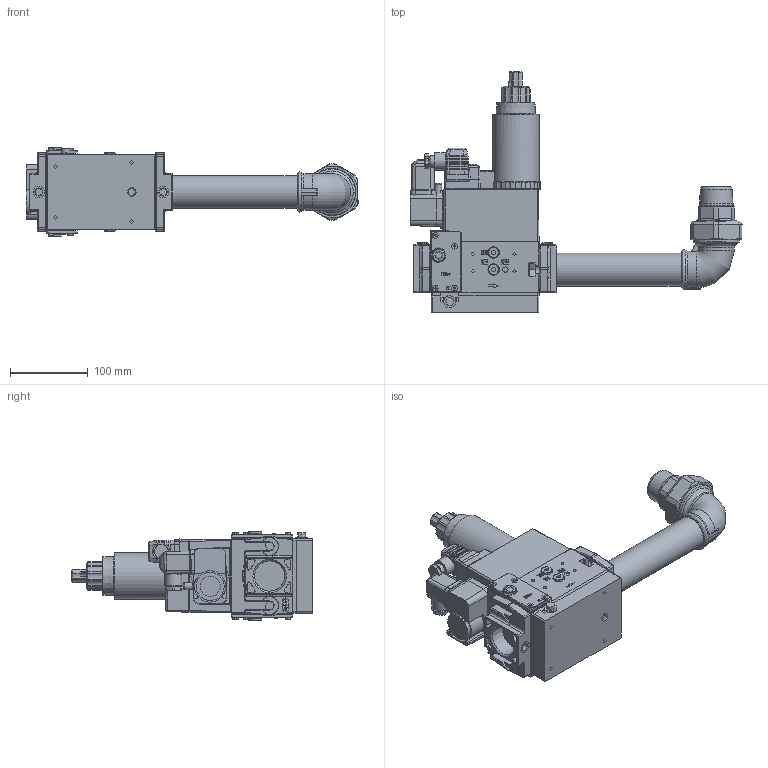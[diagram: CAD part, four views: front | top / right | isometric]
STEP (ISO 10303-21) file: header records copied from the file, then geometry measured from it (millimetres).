
FILE_DESCRIPTION (( 'STEP AP214' ), '1' );
FILE_NAME ('19990792.STEP', '2026-10-09T12:09:38', ( '' ), ( '' ), 'SwSTEP 2.0', 'SolidWorks 2025', '' );
FILE_SCHEMA (( 'AUTOMOTIVE_DESIGN' ));
Products named in the file (1): 19990792
Bounding box: 427.74 x 310 x 115 mm (x, y, z)
Volume: 3089013.8 mm3; surface area: 320647.2 mm2
Topology: 9 solids, 9 shells, 3371 faces, 8731 edges, 5567 vertices
Faces by surface type: plane 1533, bspline 851, cylinder 664, torus 180, cone 131, sphere 12
Full cylindrical faces by diameter (mm): 0.7 x2, 1.5 x1, 2 x12, 2.459 x1, 2.5 x2, 3 x1, 4 x1, 5.391 x4, 7 x10, 7.3 x1, 8 x11, 9 x1, 10.6 x2, 11.359 x1, 13 x1, 14 x6, 15 x13, 15.2 x1, 15.8 x1, 18 x1, 22.5 x2, 26 x1, 35.9 x1, 36.15 x1, 38.952 x1, 42.4 x1, 43 x1, 49.997 x1, 52.7 x1, 53 x1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
Entity records: 142217 total; most frequent: CARTESIAN_POINT 69827, ORIENTED_EDGE 16756, DIRECTION 11348, EDGE_CURVE 8378, VERTEX_POINT 5478, VECTOR 4248, LINE 4248, EDGE_LOOP 3838
